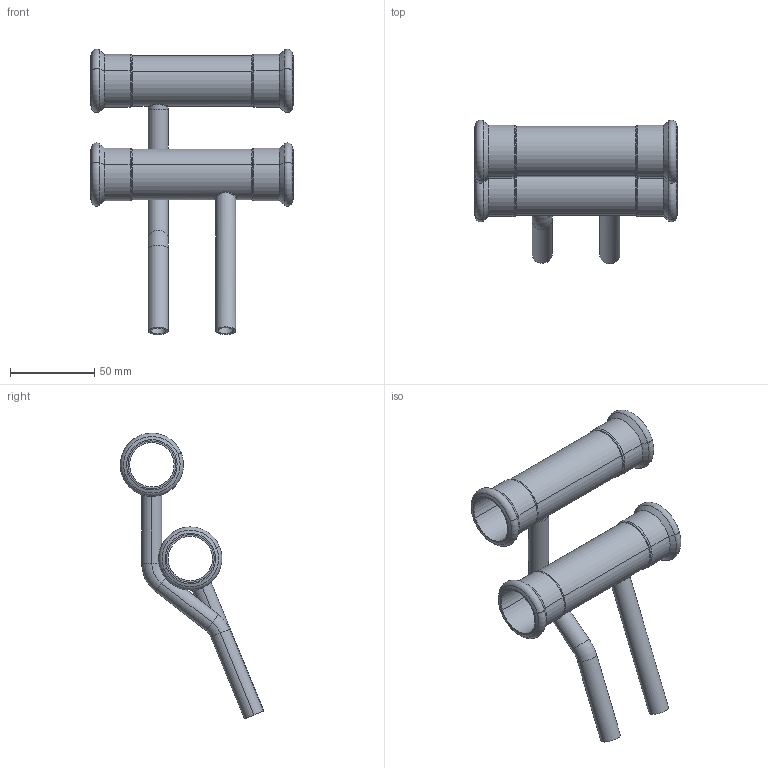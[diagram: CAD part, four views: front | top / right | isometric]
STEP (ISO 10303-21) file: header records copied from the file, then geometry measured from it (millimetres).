
FILE_DESCRIPTION(('CoCreate Modeling STEP Export'),'2;1');
FILE_NAME('C1437 28x12.stp','2015-08-13T 9:31:47',(''),(''),'CoCreate Modeling STEP processor for AP214 (Solid Model)','CoCreate Modeling 17.00A 17-Jun-2010 (C) Parametric Technology GmbH','');
FILE_SCHEMA(('AUTOMOTIVE_DESIGN { 1 0 10303 214 1 1 1 1 }'));
Length unit declared in the file: millimetre
Products named in the file (4): 620869.7.1.2; 620859.8.1.1.1.1; 620869.7.1.1.1; C1437-28x12
Assembly tree (3 placements, depth 2):
  C1437-28x12
    620869.7.1.1.1
    620859.8.1.1.1.1
    620869.7.1.2
Bounding box: 120.02 x 84.97 x 169.16 mm (x, y, z)
Volume: 51888.9 mm3; surface area: 62122.1 mm2
Topology: 3 solids, 3 shells, 120 faces, 252 edges, 148 vertices
Faces by surface type: cylinder 52, cone 24, torus 24, plane 16, bspline 4
Entity records: 6350 total; most frequent: CARTESIAN_POINT 4055, ORIENTED_EDGE 504, DIRECTION 400, EDGE_CURVE 252, AXIS2_PLACEMENT_3D 162, VERTEX_POINT 148, EDGE_LOOP 140, FACE_OUTER_BOUND 120
